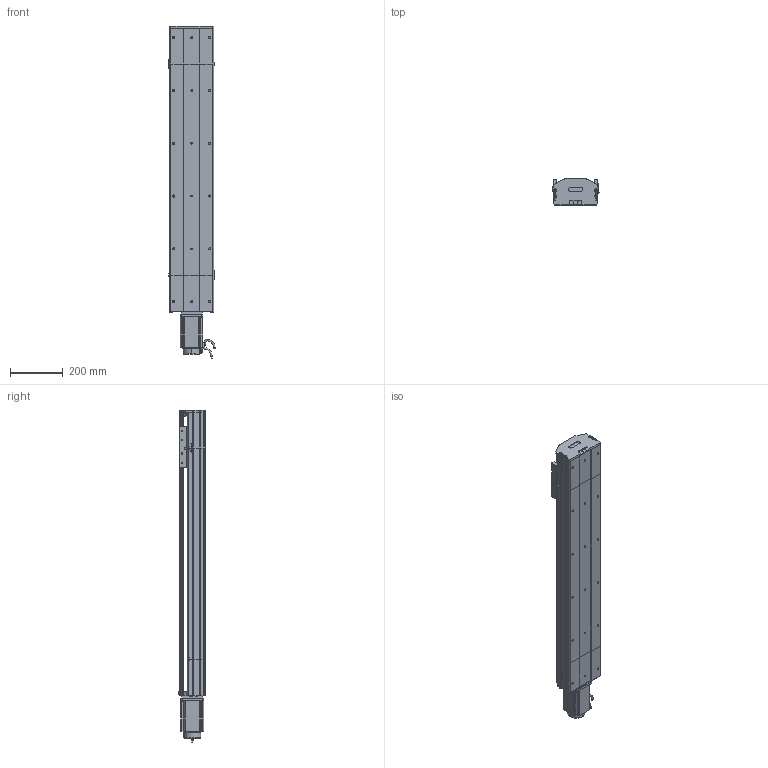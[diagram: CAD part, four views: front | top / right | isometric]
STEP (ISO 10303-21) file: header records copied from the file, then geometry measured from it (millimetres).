
FILE_DESCRIPTION (( 'STEP AP214' ), '1' );
FILE_NAME ('D17 TSH MD S800.STEP', '2010-06-30T06:47:21', ( 'Christophe Gaillard' ), ( 'SGA' ), 'SwSTEP 2.0', 'SolidWorks 2010', '' );
FILE_SCHEMA (( 'AUTOMOTIVE_DESIGN' ));
Length unit declared in the file: millimetre
Products named in the file (31): plaque de  bout head D17_Default; vis M5 L12_Default; guide D17; Chariot D17; Conecteur2_Default; codeur 90BLDC125-640; corps 90BLDC125A-640; chariot D17S_Default; Vis M5 L16-2_Default; Conecteur_Default; avant 90BLDC125A-640; Moteur motionking 90BLDC125A-640; vis M5 L5_Default; Arbre+rail head D17; course 800 D17_Default; D17 TSH MD S800; couvercle D17 course L800_Default; corp D17 800_Default; arbre + rail D17 Course 800 ; plaque de  bout tail D17_Default; corpl tail D17_Default; Tail D17_Default; Arbre+rail tail D17; tete d''axe haut D17; tete d''axe bas D17; vis M5 L25_Default; vis M5 L8 90°_Default; couvercle D17_Default; couvercle D17 head_Default; corpl head D17 MD_Default; head MD_Default
Assembly tree (50 placements, depth 4):
  D17 TSH MD S800
    course 800 D17_Default
      arbre + rail D17 Course 800 
      couvercle D17 course L800_Default
      corp D17 800_Default
    chariot D17S_Default
      guide D17  x2
      vis M5 L12_Default  x4
      Chariot D17
    Tail D17_Default
      tete d''axe bas D17
      vis M5 L12_Default  x4
      vis M5 L25_Default  x2
      tete d''axe haut D17
      Arbre+rail tail D17
      vis M5 L8 90°_Default  x2
      plaque de  bout tail D17_Default
      couvercle D17_Default
      corpl tail D17_Default
    head MD_Default
      vis M5 L12_Default  x6
      couvercle D17 head_Default
      Vis M5 L16-2_Default  x4
      Moteur motionking 90BLDC125A-640
        Conecteur_Default
        avant 90BLDC125A-640
        Conecteur2_Default
        corps 90BLDC125A-640
        codeur 90BLDC125-640
      Arbre+rail head D17
      vis M5 L5_Default  x2
      corpl head D17 MD_Default
      plaque de  bout head D17_Default
Bounding box: 174.95 x 99.7 x 1257.5 mm (x, y, z)
Volume: 7314975.5 mm3; surface area: 1850871.5 mm2
Topology: 75 solids, 75 shells, 2106 faces, 5337 edges, 3460 vertices
Faces by surface type: plane 1319, cylinder 538, bspline 136, torus 57, cone 56
Entity records: 70551 total; most frequent: CARTESIAN_POINT 22354, ORIENTED_EDGE 8490, DIRECTION 7862, EDGE_CURVE 4245, LINE 2974, VECTOR 2974, VERTEX_POINT 2796, AXIS2_PLACEMENT_3D 2444
